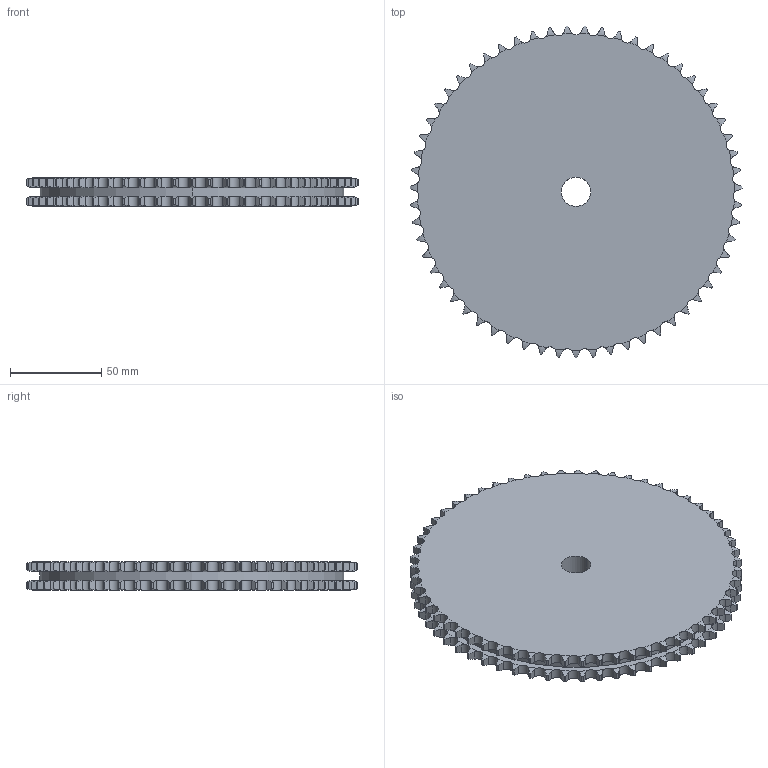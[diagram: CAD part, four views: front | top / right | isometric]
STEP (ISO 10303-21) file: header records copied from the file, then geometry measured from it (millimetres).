
FILE_DESCRIPTION((''),'2;1');
FILE_NAME('500-102-0059_PRT','2021-02-12T',('Brieden'),('Brieden'),'PRO/ENGINEER BY PARAMETRIC TECHNOLOGY CORPORATION, 2010160','PRO/ENGINEER BY PARAMETRIC TECHNOLOGY CORPORATION, 2010160','');
FILE_SCHEMA(('AUTOMOTIVE_DESIGN { 1 0 10303 214 1 1 1 1 }'));
Length unit declared in the file: millimetre
Products named in the file (1): 500-102-0059_PRT
Bounding box: 182.36 x 182.29 x 15.4 mm (x, y, z)
Volume: 359672.5 mm3; surface area: 64999.1 mm2
Topology: 1 solids, 1 shells, 716 faces, 2136 edges, 1424 vertices
Faces by surface type: cylinder 476, torus 236, plane 4
Entity records: 34894 total; most frequent: CARTESIAN_POINT 10323, ORIENTED_EDGE 4272, DIRECTION 3340, PRESENTATION_STYLE_ASSIGNMENT 2137, STYLED_ITEM 2137, CURVE_STYLE 2136, EDGE_CURVE 2136, AXIS2_PLACEMENT_3D 1432
